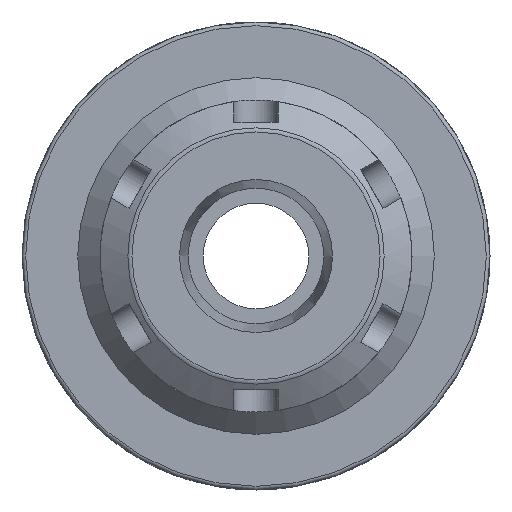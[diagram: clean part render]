
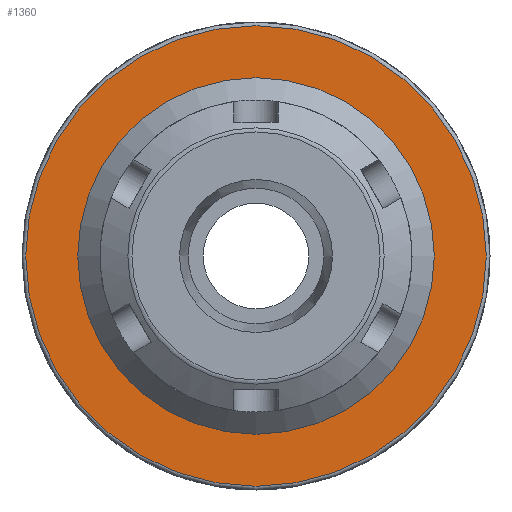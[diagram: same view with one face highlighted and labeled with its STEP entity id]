
A CAD part, front view. The second image highlights one B-rep face of the part: STEP entity #1360.
In plain terms, the highlighted planar face has unit normal (0, -1, 0).
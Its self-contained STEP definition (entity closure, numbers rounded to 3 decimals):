
#128=FACE_BOUND('',#263,.T.);
#141=PLANE('',#1532);
#181=FACE_OUTER_BOUND('',#262,.T.);
#262=EDGE_LOOP('',(#947));
#263=EDGE_LOOP('',(#948));
#509=CIRCLE('',#1529,24.);
#512=CIRCLE('',#1533,31.);
#588=VERTEX_POINT('',#2105);
#591=VERTEX_POINT('',#2113);
#730=EDGE_CURVE('',#588,#588,#509,.T.);
#734=EDGE_CURVE('',#591,#591,#512,.T.);
#947=ORIENTED_EDGE('',*,*,#734,.F.);
#948=ORIENTED_EDGE('',*,*,#730,.F.);
#1360=ADVANCED_FACE('',(#181,#128),#141,.T.);
#1529=AXIS2_PLACEMENT_3D('',#2106,#1706,#1707);
#1532=AXIS2_PLACEMENT_3D('',#2112,#1713,#1714);
#1533=AXIS2_PLACEMENT_3D('',#2114,#1715,#1716);
#1706=DIRECTION('center_axis',(0.,-1.,0.));
#1707=DIRECTION('ref_axis',(-1.,0.,0.));
#1713=DIRECTION('center_axis',(0.,-1.,0.));
#1714=DIRECTION('ref_axis',(0.,0.,-1.));
#1715=DIRECTION('center_axis',(0.,1.,0.));
#1716=DIRECTION('ref_axis',(-1.,0.,0.));
#2105=CARTESIAN_POINT('',(24.,111.6,0.));
#2106=CARTESIAN_POINT('Origin',(0.,111.6,0.));
#2112=CARTESIAN_POINT('Origin',(31.5,111.6,0.));
#2113=CARTESIAN_POINT('',(0.,111.6,-31.));
#2114=CARTESIAN_POINT('Origin',(0.,111.6,0.));
